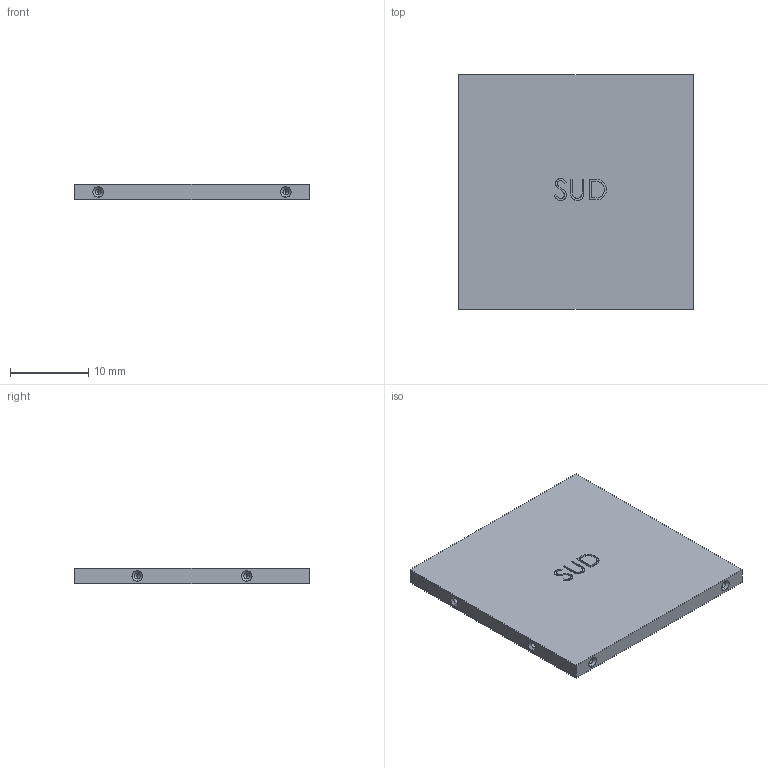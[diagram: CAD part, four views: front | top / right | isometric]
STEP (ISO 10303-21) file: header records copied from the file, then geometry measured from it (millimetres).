
FILE_DESCRIPTION (( 'STEP AP214' ), '1' );
FILE_NAME ('G9.STEP', '2016-02-28T09:00:29', ( '' ), ( '' ), 'SwSTEP 2.0', 'SolidWorks 2012', '' );
FILE_SCHEMA (( 'AUTOMOTIVE_DESIGN' ));
Length unit declared in the file: millimetre
Products named in the file (1): G9
Bounding box: 30 x 30 x 2 mm (x, y, z)
Volume: 1780.9 mm3; surface area: 2135.4 mm2
Topology: 1 solids, 1 shells, 109 faces, 269 edges, 174 vertices
Faces by surface type: cone 32, plane 32, bspline 29, cylinder 16
Entity records: 4651 total; most frequent: CARTESIAN_POINT 2158, ORIENTED_EDGE 538, DIRECTION 453, EDGE_CURVE 269, VERTEX_POINT 174, AXIS2_PLACEMENT_3D 161, LINE 131, VECTOR 131
